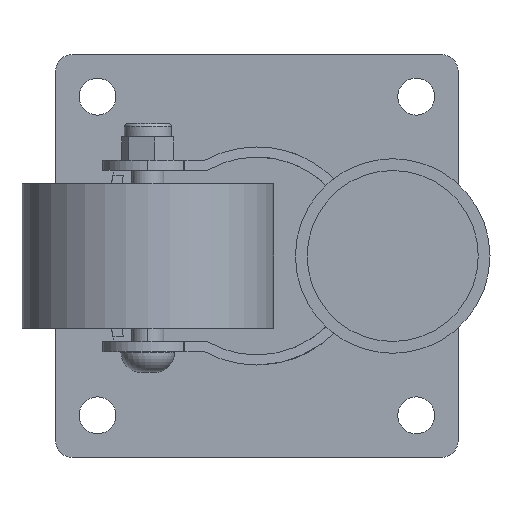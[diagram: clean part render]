
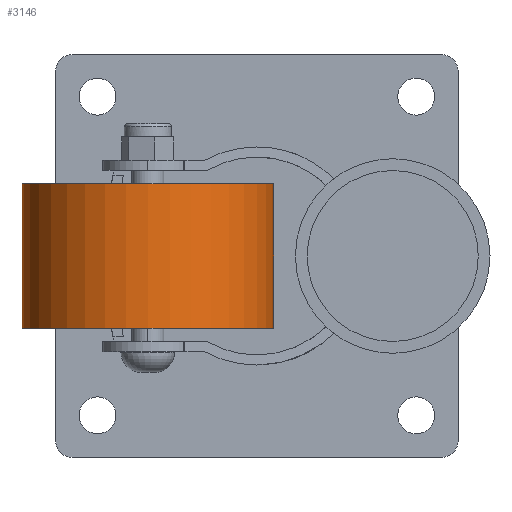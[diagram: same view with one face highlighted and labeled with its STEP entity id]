
A CAD part, front view. The second image highlights one B-rep face of the part: STEP entity #3146.
In plain terms, the highlighted cylindrical face has radius 37.5 mm (diameter 75 mm), a partial arc.
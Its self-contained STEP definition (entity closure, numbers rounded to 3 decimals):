
#321 = DIRECTION ( 'NONE',  ( -1., 0., 0. ) ) ;
#330 = ORIENTED_EDGE ( 'NONE', *, *, #4630, .T. ) ;
#358 = DIRECTION ( 'NONE',  ( 0., 0., -1. ) ) ;
#373 = VECTOR ( 'NONE', #3134, 1000. ) ;
#376 = CARTESIAN_POINT ( 'NONE',  ( 240.007, 116.026, -61.5 ) ) ;
#384 = DIRECTION ( 'NONE',  ( 0., 0., -1. ) ) ;
#448 = EDGE_CURVE ( 'NONE', #4395, #519, #2073, .T. ) ;
#466 = DIRECTION ( 'NONE',  ( 0., 0., -1. ) ) ;
#473 = CARTESIAN_POINT ( 'NONE',  ( 202.507, 116.026, -18.5 ) ) ;
#511 = FACE_OUTER_BOUND ( 'NONE', #1307, .T. ) ;
#516 = EDGE_CURVE ( 'NONE', #2065, #2042, #1891, .T. ) ;
#519 = VERTEX_POINT ( 'NONE', #3580 ) ;
#656 = ORIENTED_EDGE ( 'NONE', *, *, #448, .F. ) ;
#806 = CARTESIAN_POINT ( 'NONE',  ( 240.007, 116.026, -18.5 ) ) ;
#975 = AXIS2_PLACEMENT_3D ( 'NONE', #3516, #3193, #3181 ) ;
#1088 = LINE ( 'NONE', #2783, #1966 ) ;
#1307 = EDGE_LOOP ( 'NONE', ( #1656, #4145, #330, #656 ) ) ;
#1656 = ORIENTED_EDGE ( 'NONE', *, *, #3270, .F. ) ;
#1783 = AXIS2_PLACEMENT_3D ( 'NONE', #806, #384, #3443 ) ;
#1891 = CIRCLE ( 'NONE', #975, 37.5 ) ;
#1966 = VECTOR ( 'NONE', #466, 1000. ) ;
#2042 = VERTEX_POINT ( 'NONE', #2386 ) ;
#2065 = VERTEX_POINT ( 'NONE', #473 ) ;
#2073 = CIRCLE ( 'NONE', #4894, 37.5 ) ;
#2386 = CARTESIAN_POINT ( 'NONE',  ( 277.507, 116.026, -18.5 ) ) ;
#2783 = CARTESIAN_POINT ( 'NONE',  ( 277.507, 116.026, -18.5 ) ) ;
#3134 = DIRECTION ( 'NONE',  ( 0., 0., -1. ) ) ;
#3146 = ADVANCED_FACE ( 'NONE', ( #511 ), #3428, .T. ) ;
#3181 = DIRECTION ( 'NONE',  ( -1., 0., 0. ) ) ;
#3193 = DIRECTION ( 'NONE',  ( 0., 0., 1. ) ) ;
#3270 = EDGE_CURVE ( 'NONE', #2042, #4395, #1088, .T. ) ;
#3425 = LINE ( 'NONE', #4674, #373 ) ;
#3428 = CYLINDRICAL_SURFACE ( 'NONE', #1783, 37.5 ) ;
#3443 = DIRECTION ( 'NONE',  ( -1., 0., 0. ) ) ;
#3473 = CARTESIAN_POINT ( 'NONE',  ( 277.507, 116.026, -61.5 ) ) ;
#3516 = CARTESIAN_POINT ( 'NONE',  ( 240.007, 116.026, -18.5 ) ) ;
#3580 = CARTESIAN_POINT ( 'NONE',  ( 202.507, 116.026, -61.5 ) ) ;
#4145 = ORIENTED_EDGE ( 'NONE', *, *, #516, .F. ) ;
#4395 = VERTEX_POINT ( 'NONE', #3473 ) ;
#4630 = EDGE_CURVE ( 'NONE', #2065, #519, #3425, .T. ) ;
#4674 = CARTESIAN_POINT ( 'NONE',  ( 202.507, 116.026, -18.5 ) ) ;
#4894 = AXIS2_PLACEMENT_3D ( 'NONE', #376, #358, #321 ) ;
